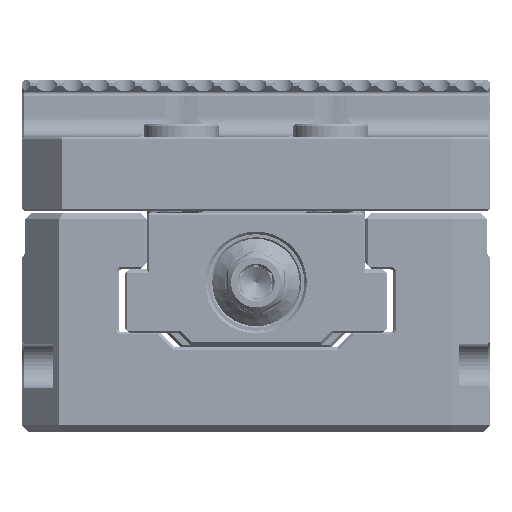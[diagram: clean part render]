
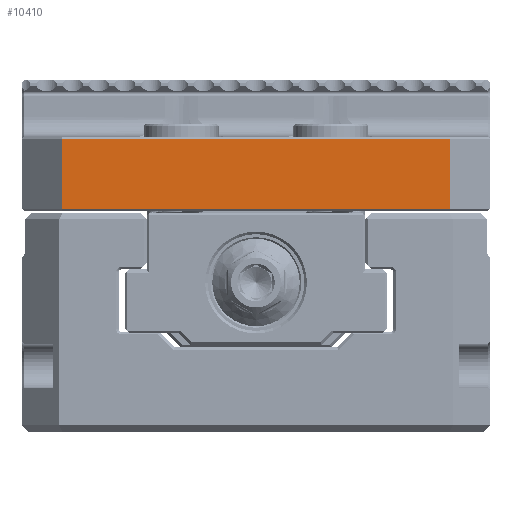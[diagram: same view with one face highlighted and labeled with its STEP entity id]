
A CAD part, front view. The second image highlights one B-rep face of the part: STEP entity #10410.
In plain terms, the highlighted planar face has unit normal (0, -1, 0).
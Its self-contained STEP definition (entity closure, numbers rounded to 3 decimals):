
#7487=FACE_OUTER_BOUND('',#14655,.T.);
#10410=ADVANCED_FACE('',(#7487),#12142,.F.);
#12142=PLANE('',#38103);
#14655=EDGE_LOOP('',(#17502,#17503,#17504,#17505));
#17502=ORIENTED_EDGE('',*,*,#28556,.F.);
#17503=ORIENTED_EDGE('',*,*,#28557,.T.);
#17504=ORIENTED_EDGE('',*,*,#28558,.T.);
#17505=ORIENTED_EDGE('',*,*,#28559,.T.);
#25538=VERTEX_POINT('',#48690);
#25539=VERTEX_POINT('',#48691);
#25540=VERTEX_POINT('',#48693);
#25541=VERTEX_POINT('',#48695);
#28556=EDGE_CURVE('',#25538,#25539,#32602,.T.);
#28557=EDGE_CURVE('',#25538,#25540,#32603,.T.);
#28558=EDGE_CURVE('',#25540,#25541,#32604,.T.);
#28559=EDGE_CURVE('',#25541,#25539,#32605,.T.);
#32602=LINE('',#48689,#34749);
#32603=LINE('',#48692,#34750);
#32604=LINE('',#48694,#34751);
#32605=LINE('',#48696,#34752);
#34749=VECTOR('',#41288,1.);
#34750=VECTOR('',#41289,1.);
#34751=VECTOR('',#41290,1.);
#34752=VECTOR('',#41291,1.);
#38103=AXIS2_PLACEMENT_3D('',#48697,#41292,#41293);
#41288=DIRECTION('',(0.,0.,1.));
#41289=DIRECTION('',(1.,0.,0.));
#41290=DIRECTION('',(0.,0.,1.));
#41291=DIRECTION('',(-1.,0.,0.));
#41292=DIRECTION('',(0.,1.,0.));
#41293=DIRECTION('',(-1.,0.,0.));
#48689=CARTESIAN_POINT('',(-31.15,-54.5,35.3));
#48690=CARTESIAN_POINT('',(-31.15,-54.5,35.7));
#48691=CARTESIAN_POINT('',(-31.15,-54.5,46.9));
#48692=CARTESIAN_POINT('',(-37.5,-54.5,35.7));
#48693=CARTESIAN_POINT('',(31.15,-54.5,35.7));
#48694=CARTESIAN_POINT('',(31.15,-54.5,35.3));
#48695=CARTESIAN_POINT('',(31.15,-54.5,46.9));
#48696=CARTESIAN_POINT('',(-37.5,-54.5,46.9));
#48697=CARTESIAN_POINT('',(-37.5,-54.5,35.3));
